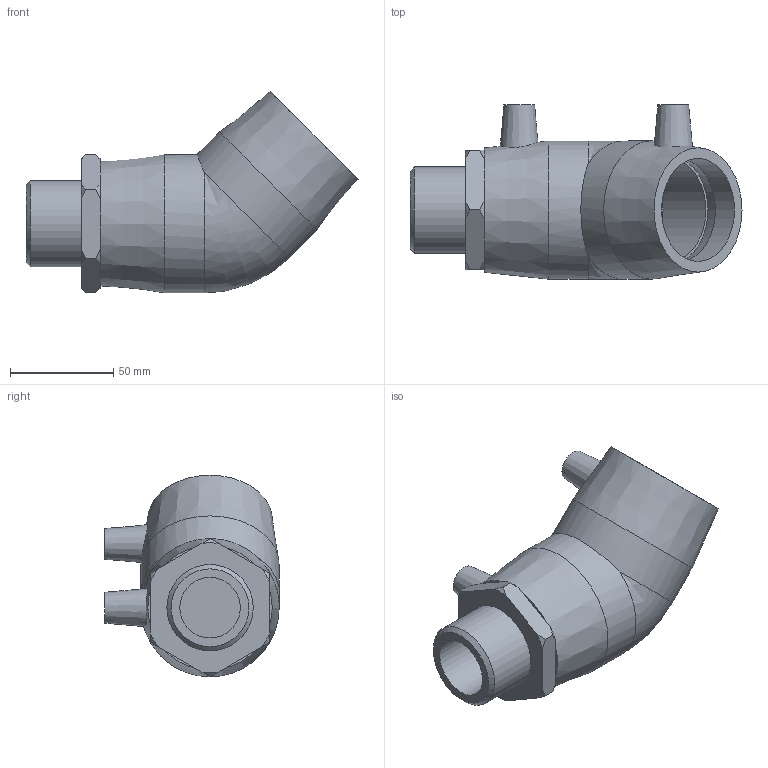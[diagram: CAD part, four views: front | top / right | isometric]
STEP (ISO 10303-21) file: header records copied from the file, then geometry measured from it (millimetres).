
FILE_DESCRIPTION(/* description */ ('PLASSON 45° ELBOW TRANSITION MALE 50-1.1/4"'),/* implementation_level */ '2;1');
FILE_NAME(/* name */ 'C:\Dropbox\KIMPROJECTS-Inventor\99-16-3568-Processing\ElectroFusion Fittings\02.02.20\492604\492604050013.ipt.stp',/* time_stamp */ '2020-02-02T12:20:03+02:00',/* author */ ('KIM'),/* organization */ (''),/* preprocessor_version */ 'ST-DEVELOPER v15.6',/* originating_system */ 'Autodesk Inventor 2015',/* authorisation */ '');
FILE_SCHEMA (('AUTOMOTIVE_DESIGN { 1 0 10303 214 3 1 1 }'));
Length unit declared in the file: millimetre
Products named in the file (1): 492604050013
Bounding box: 161 x 84.5 x 97.77 mm (x, y, z)
Volume: 291714.2 mm3; surface area: 61330 mm2
Topology: 1 solids, 2 shells, 59 faces, 133 edges, 88 vertices
Faces by surface type: plane 24, cone 19, cylinder 15, bspline 1
Full cylindrical faces by diameter (mm): 4 x2, 10 x2, 29.337 x1, 32.5 x2, 38 x1, 41.91 x1, 50 x4, 67 x2
Entity records: 1500 total; most frequent: CARTESIAN_POINT 369, DIRECTION 236, ORIENTED_EDGE 188, AXIS2_PLACEMENT_3D 109, EDGE_LOOP 97, EDGE_CURVE 94, VERTEX_POINT 75, FACE_OUTER_BOUND 59
